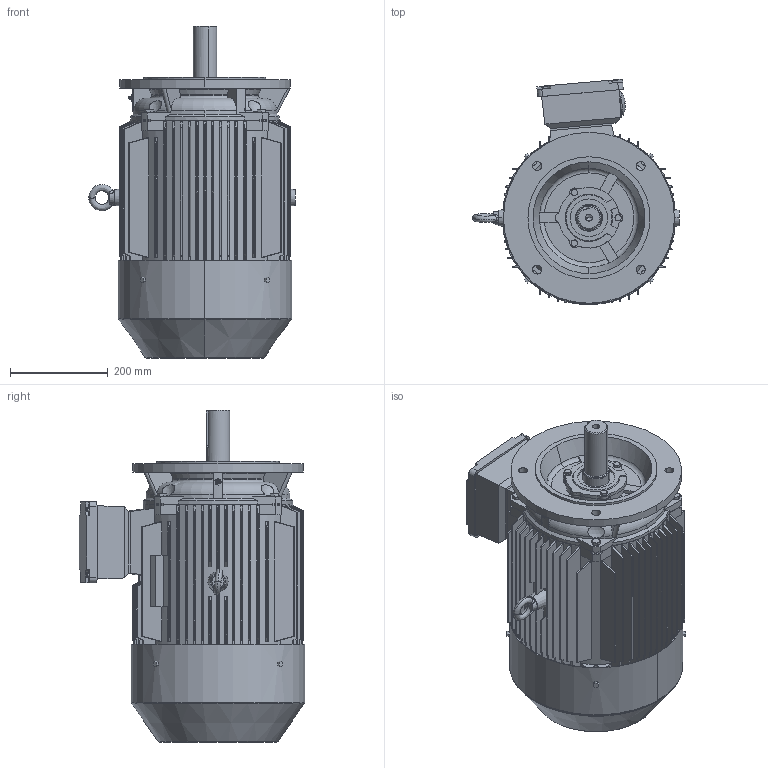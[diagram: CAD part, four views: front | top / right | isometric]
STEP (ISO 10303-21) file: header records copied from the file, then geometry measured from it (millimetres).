
FILE_DESCRIPTION (( 'STEP AP203' ), '1' );
FILE_NAME ('TE3-180M-2 B5 2018.STEP', '2019-11-19T03:16:25', ( '微软用户' ), ( '微软中国' ), 'SwSTEP 2.0', 'SolidWorks 2012', '' );
FILE_SCHEMA (( 'CONFIG_CONTROL_DESIGN' ));
Length unit declared in the file: millimetre
Products named in the file (14): TE3-180M-2 B5 2018; 蚐戚; hexagon head bolts gb_GB_FASTENER_BOLT_SB A M8X40-N; hexagon head bolts-full thread gb_GB_FASTENER_BOLT_STBAB A M10X20-N; 5EJ.354.484GX160~180P24諉盄碟; hexagon head bolts-full thread gb_GB_FASTENER_BOLT_STBAB A M6X12-N; 8EJ.353.10053GX160~180P24諉盄碟裔; 8EJ.354.593Y2-160~180P24諉盄碟釱; eyebolts gb_GB_FASTENER_SCREWS_FRS M12-N; YX3-180 粣ㄗ粣扥ㄘ; YX3-180-2 粣創俋裔; YX3-180 瑞欶; Y2-180-2芧埽傷裔017.00088; Y2-180M B5奻 儂釱
Assembly tree (21 placements, depth 3):
  TE3-180M-2 B5 2018
    Y2-180M B5奻 儂釱
    Y2-180-2芧埽傷裔017.00088
    YX3-180 瑞欶
    YX3-180-2 粣創俋裔
    YX3-180 粣ㄗ粣扥ㄘ
    eyebolts gb_GB_FASTENER_SCREWS_FRS M12-N
    5EJ.354.484GX160~180P24諉盄碟
      8EJ.354.593Y2-160~180P24諉盄碟釱
      8EJ.353.10053GX160~180P24諉盄碟裔
      hexagon head bolts-full thread gb_GB_FASTENER_BOLT_STBAB A M6X12-N  x4
    hexagon head bolts-full thread gb_GB_FASTENER_BOLT_STBAB A M10X20-N  x4
    hexagon head bolts gb_GB_FASTENER_BOLT_SB A M8X40-N  x3
    蚐戚
Bounding box: 423.1 x 461.54 x 680 mm (x, y, z)
Volume: 33061689 mm3; surface area: 2425472.2 mm2
Topology: 21 solids, 22 shells, 3155 faces, 8244 edges, 5425 vertices
Faces by surface type: plane 1561, cylinder 1183, cone 322, torus 63, bspline 18, sphere 8
Entity records: 99431 total; most frequent: CARTESIAN_POINT 23932, ORIENTED_EDGE 15458, DIRECTION 15432, EDGE_CURVE 7729, AXIS2_PLACEMENT_3D 5510, VERTEX_POINT 5110, VECTOR 4412, LINE 4412
